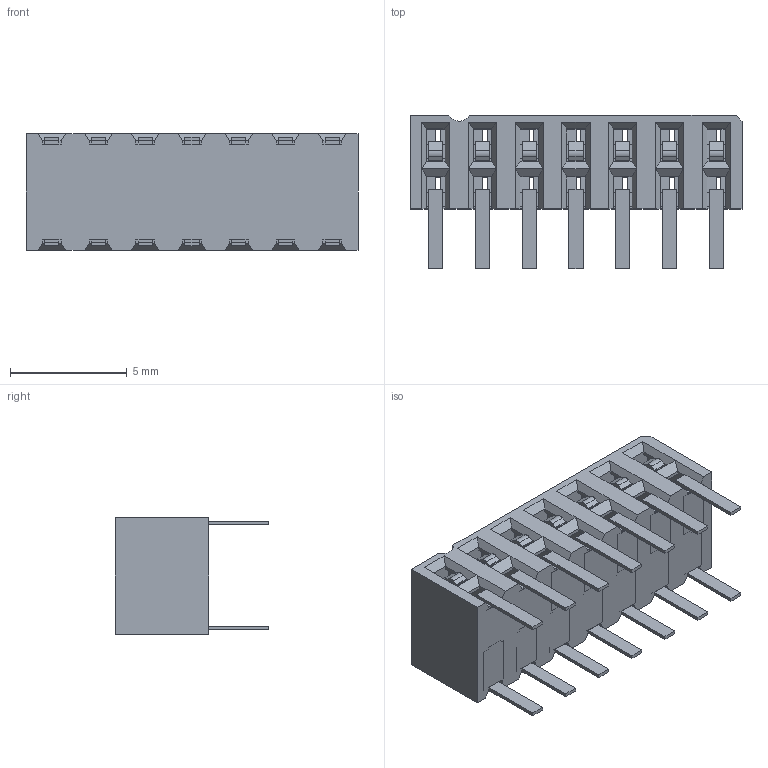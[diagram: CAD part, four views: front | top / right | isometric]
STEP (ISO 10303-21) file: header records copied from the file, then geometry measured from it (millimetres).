
FILE_DESCRIPTION((''),'2;1');
FILE_NAME('872641452','2005-06-23T',('rnarayana'),(''),'PRO/ENGINEER BY PARAMETRIC TECHNOLOGY CORPORATION, 2002490','PRO/ENGINEER BY PARAMETRIC TECHNOLOGY CORPORATION, 2002490','');
FILE_SCHEMA(('CONFIG_CONTROL_DESIGN'));
Length unit declared in the file: millimetre
Products named in the file (1): 872641452
Bounding box: 14.2 x 6.55 x 5 mm (x, y, z)
Volume: 162.9 mm3; surface area: 769.4 mm2
Topology: 1 solids, 1 shells, 765 faces, 2282 edges, 1428 vertices
Faces by surface type: plane 736, cylinder 29
Entity records: 25025 total; most frequent: ORIENTED_EDGE 4494, CARTESIAN_POINT 4435, DIRECTION 3902, EDGE_CURVE 2247, VECTOR 2196, LINE 2196, VERTEX_POINT 1386, AXIS2_PLACEMENT_3D 853
